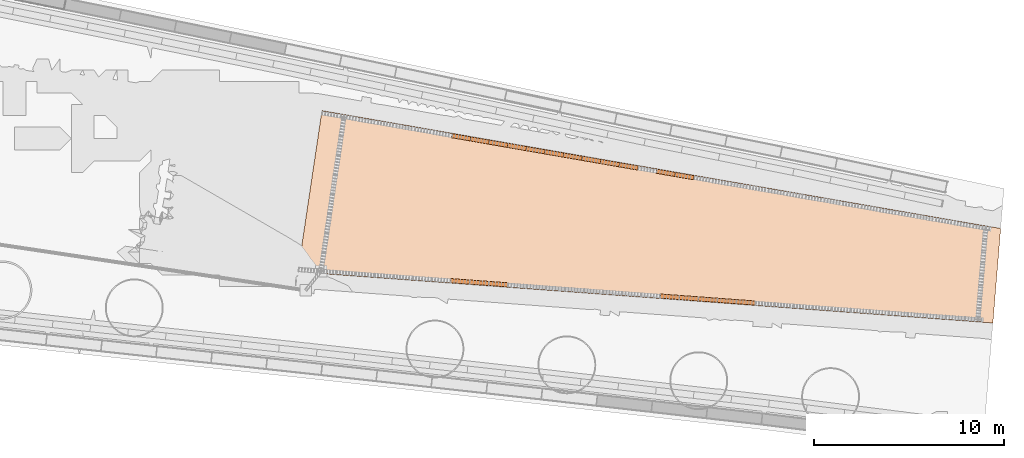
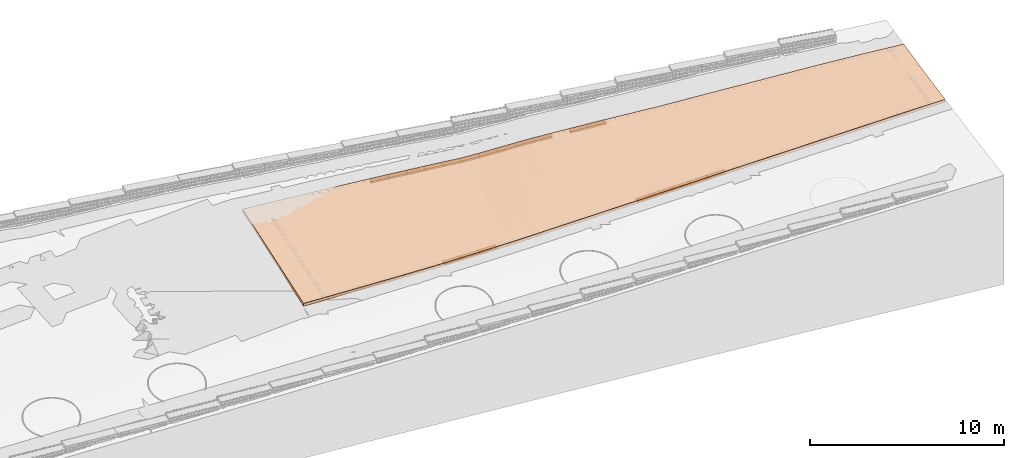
# Not in any storey, part 27 of 33: 20 proxies, 1 geographic element.
"""IFC4 model written with IfcOpenShell, lengths in metres."""

import ifcopenshell
import ifcopenshell.guid

model = None  # the IFC model being written
_history = None  # IfcOwnerHistory: only IFC2X3 demands one
_inside = {}  # id of a spatial element -> (the spatial element, [elements in it])
_under = {}  # id of a project, library or spatial element -> (it, [spatial elements below it])
_declared = {}  # id of a project -> (the project, [libraries it declares])
_typed = {}  # id of a type object -> (the type object, [elements of that type])
_made_of = {}  # id of a material, layer set ... -> (it, [elements and type objects made of it])


def new_model(schema):
    """Start an empty IFC model of exactly this schema.

    Asked for "IFC4X3", IfcOpenShell would pick the latest addendum, in which some entities
    have other attributes; the version numbers below select the first issue.
    IFC2X3 requires an IfcOwnerHistory on every rooted entity: one is made here for all.
    """
    global model, _history
    if schema == "IFC4X3":
        model = ifcopenshell.file(schema_version=(4, 3, 0, 0))
    else:
        model = ifcopenshell.file(schema=schema)
    _inside.clear()
    _under.clear()
    _declared.clear()
    _typed.clear()
    _made_of.clear()
    _history = None
    if model.schema == "IFC2X3":
        org = make("IfcOrganization", Name="unknown")
        user = make(
            "IfcPersonAndOrganization",
            ThePerson=make("IfcPerson", FamilyName="unknown"),
            TheOrganization=org,
        )
        app = make(
            "IfcApplication",
            ApplicationDeveloper=org,
            Version="unknown",
            ApplicationFullName="unknown",
            ApplicationIdentifier="unknown",
        )
        _history = make(
            "IfcOwnerHistory",
            OwningUser=user,
            OwningApplication=app,
            ChangeAction="ADDED",
            CreationDate=0,
        )
    return model


def make(cls, **values):
    """One entity of the class cls with the attributes given. An attribute that is None is left unset."""
    return model.create_entity(
        cls, **{name: value for name, value in values.items() if value is not None}
    )


def rooted(cls, **values):
    """An entity with a GlobalId (a new one), such as an element, a storey or a relation."""
    return make(cls, GlobalId=ifcopenshell.guid.new(), OwnerHistory=_history, **values)


def si_unit(unit_type, name, prefix=None):
    """IfcSIUnit, for example si_unit("LENGTHUNIT", "METRE", prefix="MILLI")."""
    return make("IfcSIUnit", UnitType=unit_type, Prefix=prefix, Name=name)


def assignment(units):
    """IfcUnitAssignment: the units of a project."""
    return None if units is None else make("IfcUnitAssignment", Units=units)


def point(xyz):
    """IfcCartesianPoint."""
    return None if xyz is None else make("IfcCartesianPoint", Coordinates=xyz)


def direction(xyz):
    """IfcDirection."""
    return None if xyz is None else make("IfcDirection", DirectionRatios=xyz)


def frame(location, z_axis=None, x_axis=None):
    """IfcAxis2Placement3D, a coordinate frame: its origin and axes. An axis left out is left unset."""
    return make(
        "IfcAxis2Placement3D",
        Location=point(location),
        Axis=direction(z_axis),
        RefDirection=direction(x_axis),
    )


def origin_with_axes():
    """The frame at (0, 0, 0) with the z axis (0, 0, 1) and the x axis (1, 0, 0) written out."""
    return frame((0.0, 0.0, 0.0), z_axis=(0.0, 0.0, 1.0), x_axis=(1.0, 0.0, 0.0))


def place(relative_to, where):
    """IfcLocalPlacement: puts the frame where relative to a parent placement (None: the world)."""
    return make(
        "IfcLocalPlacement", PlacementRelTo=relative_to, RelativePlacement=where
    )


def context(
    kind, dimensions, precision=None, world=None, true_north=None, identifier=None
):
    """IfcGeometricRepresentationContext, for example the 3D "Model" context."""
    return make(
        "IfcGeometricRepresentationContext",
        ContextIdentifier=identifier,
        ContextType=kind,
        CoordinateSpaceDimension=dimensions,
        Precision=precision,
        WorldCoordinateSystem=world,
        TrueNorth=true_north,
    )


def subcontext(parent, identifier, kind, view, scale=None):
    """IfcGeometricRepresentationSubContext, for example "Body" below "Model"."""
    return make(
        "IfcGeometricRepresentationSubContext",
        ContextIdentifier=identifier,
        ContextType=kind,
        ParentContext=parent,
        TargetScale=scale,
        TargetView=view,
    )


def project(units=None, contexts=None):
    """IfcProject with its units and contexts."""
    return rooted(
        "IfcProject",
        Name="project",
        RepresentationContexts=contexts,
        UnitsInContext=assignment(units),
    )


def spatial(cls, under=None, at=None, **own):
    """A site, building, storey or space (cls), placed at a placement, below another one or the project."""
    s = rooted(cls, ObjectPlacement=at, **own)
    if under is not None:
        _under.setdefault(under.id(), (under, []))[1].append(s)
    return s


def point_list(points):
    """IfcCartesianPointList2D or 3D."""
    cls = (
        "IfcCartesianPointList2D" if len(points[0]) == 2 else "IfcCartesianPointList3D"
    )
    return make(cls, CoordList=points)


def polygons(points, faces, closed=None, point_numbers=None):
    """IfcPolygonalFaceSet: a face is its outer loop, then its inner loops; points numbered from 1."""
    made = []
    for loops in faces:
        if len(loops) == 1:
            made.append(make("IfcIndexedPolygonalFace", CoordIndex=loops[0]))
        else:
            made.append(
                make(
                    "IfcIndexedPolygonalFaceWithVoids",
                    CoordIndex=loops[0],
                    InnerCoordIndices=loops[1:],
                )
            )
    return make(
        "IfcPolygonalFaceSet",
        Coordinates=point_list(points),
        Closed=closed,
        Faces=made,
        PnIndex=point_numbers,
    )


def shape(context_of_items, identifier, shape_type, items):
    """IfcShapeRepresentation: the items that make up one representation, for example the "Body"."""
    return make(
        "IfcShapeRepresentation",
        ContextOfItems=context_of_items,
        RepresentationIdentifier=identifier,
        RepresentationType=shape_type,
        Items=items,
    )


def material(Name=None, Category=None):
    """IfcMaterial."""
    return make("IfcMaterial", Name=Name, Category=Category)


def made_of(thing, what):
    """Note that an element or type object is made of a material, layer set ...; save() writes the relation."""
    if what is not None:
        _made_of.setdefault(what.id(), (what, []))[1].append(thing)
    return thing


def element(
    cls,
    number,
    at=None,
    inside=None,
    cuts=None,
    type_object=None,
    material=None,
    context=None,
    identifier="Body",
    shape_type=None,
    held_by="IfcProductDefinitionShape",
    body=None,
    shapes=None,
    **own,
):
    """One element of the class cls, such as IfcWall. Its Tag is "e" and its number.

    at: its placement. inside: the storey or other place that contains it. cuts: it is an
    opening in that element (IfcRelVoidsElement). A single representation is given by context,
    identifier, shape_type and body (its items); several are given by shapes. held_by: the class
    of the entity that holds the representations. save() writes the other relations.
    """
    e = rooted(cls, Tag="e%d" % number, ObjectPlacement=at, **own)
    if body is not None:
        shapes = [shape(context, identifier, shape_type, body)]
    if shapes is not None:
        e.Representation = make(held_by, Representations=shapes)
    if inside is not None:
        _inside.setdefault(inside.id(), (inside, []))[1].append(e)
    if cuts is not None:
        rooted(
            "IfcRelVoidsElement", RelatingBuildingElement=cuts, RelatedOpeningElement=e
        )
    if type_object is not None:
        _typed.setdefault(type_object.id(), (type_object, []))[1].append(e)
    return made_of(e, material)


def aggregate(whole, parts):
    """IfcRelAggregates: a whole, such as a stair, and the parts it consists of."""
    return rooted("IfcRelAggregates", RelatingObject=whole, RelatedObjects=parts)


def save(model, path):
    """Write the relations noted so far, then the file.

    IfcRelAggregates (storeys below a building ...), IfcRelContainedInSpatialStructure (elements
    in a storey), IfcRelDefinesByType, IfcRelAssociatesMaterial and IfcRelDeclares: one each for
    every whole, place, type object, material and project.
    """
    for whole, parts in _under.values():
        aggregate(whole, parts)
    for where, things in _inside.values():
        rooted(
            "IfcRelContainedInSpatialStructure",
            RelatedElements=things,
            RelatingStructure=where,
        )
    for kind, things in _typed.values():
        rooted("IfcRelDefinesByType", RelatedObjects=things, RelatingType=kind)
    for what, things in _made_of.values():
        rooted("IfcRelAssociatesMaterial", RelatedObjects=things, RelatingMaterial=what)
    for by, libraries in _declared.values():
        rooted("IfcRelDeclares", RelatingContext=by, RelatedDefinitions=libraries)
    model.write(path)


model = new_model("IFC4")

# Units and contexts
model_context = context("Model", 3, precision=1e-05, world=origin_with_axes(), true_north=direction((0.0, 1.0)))
body_context = subcontext(model_context, "Body", "Model", "MODEL_VIEW")
ifc_project = project(units=[si_unit("AREAUNIT", "SQUARE_METRE"), si_unit("VOLUMEUNIT", "CUBIC_METRE"), si_unit("LENGTHUNIT", "METRE")], contexts=[model_context])

# Site
site_placement = place(None, origin_with_axes())
site = spatial("IfcSite", under=ifc_project, at=site_placement, Name="Lares · Rua das Mercês · artigo 4771")

# Geographic element
ifc_material_1 = material(Name="Pavimento rugoso · betão vassourado", Category="paving")
geographic_element_placement = place(site_placement, origin_with_axes())
element("IfcGeographicElement", 1, at=geographic_element_placement, inside=site, material=ifc_material_1, Name="Acesso trapezoidal · 8,60 m no pódio / 5,00 m na rua", ObjectType="Acesso trapezoidal · 8,60 m no pódio / 5,00 m na rua", PredefinedType="USERDEFINED", context=body_context, shape_type="Tessellation", body=[
    polygons([(47.2726756, 7.4551369, 14.6754), (46.6370951, 3.2023687, 14.5034), (48.2651934, 7.3330373, 14.6950979), (47.641404, 3.1285378, 14.5081064), (47.9082561, 11.7079052, 14.8474), (48.8889828, 11.5375368, 14.880832), (49.2577113, 7.2109377, 14.7141288), (48.6457129, 3.0547069, 14.5146605), (49.8697096, 11.3671684, 14.9144106), (50.2502291, 7.088838, 14.7324927), (49.6500219, 2.9808761, 14.5230623), (50.8504364, 11.1968, 14.9494817), (51.242747, 6.9667384, 14.7501895), (50.6543308, 2.9070452, 14.5333117), (51.8311632, 11.0264316, 14.9814926), (52.2352648, 6.8446388, 14.7672194), (51.6586397, 2.8332143, 14.5454088), (52.81189, 10.8560632, 15.0124955), (53.2277827, 6.7225391, 14.7835822), (52.6629486, 2.7593834, 14.5593536), (53.7926168, 10.6856949, 15.0424902), (54.2203005, 6.6004395, 14.8017153), (53.6672575, 2.6855525, 14.575146), (54.7733435, 10.5153265, 15.0714768), (55.2128184, 6.4783398, 14.8244149), (54.6715664, 2.6117216, 14.5927861), (55.7540703, 10.3449581, 15.0994552), (56.2053362, 6.3562402, 14.8550989), (55.6758753, 2.5378907, 14.6282986), (56.7347971, 10.1745897, 15.1193596), (57.1978541, 6.2341406, 14.8857829), (56.6801842, 2.4640598, 14.6654506), (57.7155239, 10.0042213, 15.1392641), (58.1903719, 6.1120409, 14.9164669), (57.6844932, 2.3902289, 14.7070092), (58.6962507, 9.8338529, 15.1591685), (59.1828898, 5.9899413, 14.947151), (58.6888021, 2.316398, 14.7485679), (59.6769775, 9.6634845, 15.1660071), (60.1754076, 5.8678417, 15.0302493), (59.693111, 2.2425671, 14.8057838), (60.6577042, 9.4931162, 15.2273903), (61.1679255, 5.745742, 15.1146175), (60.6974199, 2.1687363, 14.8641032), (61.638431, 9.3227478, 15.3111848), (62.1604433, 5.6236424, 15.1705025), (61.7017288, 2.0949054, 14.9224226), (62.6191578, 9.1523794, 15.3990058), (63.1529612, 5.5015427, 15.2263874), (62.7060377, 2.0210745, 14.980742), (63.5998846, 8.982011, 15.4794087), (64.145479, 5.3794431, 15.2822723), (63.7103466, 1.9472436, 15.0390614), (64.5806114, 8.8116426, 15.5314253), (65.1379969, 5.2573435, 15.3381573), (64.7146555, 1.8734127, 15.0973808), (65.5613382, 8.6412742, 15.583442), (66.1305147, 5.1352438, 15.3940422), (65.7189645, 1.7995818, 15.1557002), (66.5420649, 8.4709059, 15.6354586), (67.1230326, 5.0131442, 15.4499271), (66.7232734, 1.7257509, 15.2140196), (67.5227917, 8.3005375, 15.6806264), (68.1155504, 4.8910446, 15.505812), (67.7275823, 1.65192, 15.272339), (68.5035185, 8.1301691, 15.7192003), (69.1080682, 4.7689449, 15.561697), (68.7318912, 1.5780891, 15.3318854), (69.4842453, 7.9598007, 15.7577742), (70.1005861, 4.6468453, 15.6040598), (69.7362001, 1.5042582, 15.3916386), (70.4649721, 7.7894323, 15.7963481), (71.0931039, 4.5247456, 15.6458906), (70.740509, 1.4304273, 15.4513918), (71.4456989, 7.6190639, 15.8535828), (72.0856218, 4.402646, 15.6911355), (71.7448179, 1.3565965, 15.5074355), (72.4264256, 7.4486956, 15.9152973), (73.0781396, 4.2805464, 15.7447425), (72.7491268, 1.2827656, 15.5651106), (73.4071524, 7.2783272, 15.9732245), (74.0706575, 4.1584467, 15.7983495), (73.7534358, 1.2089347, 15.6230391), (74.3878792, 7.1079588, 16.0274247), (75.0631753, 4.0363471, 15.8519566), (74.7577447, 1.1351038, 15.6809676), (75.368606, 6.9375904, 16.0816249), (76.0556932, 3.9142475, 15.9055636), (75.7620536, 1.0612729, 15.7388962), (76.3493328, 6.767222, 16.1358251), (77.048211, 3.7921478, 15.9591706), (76.7663625, 0.987442, 15.7968247), (77.3300596, 6.5968536, 16.1900253), (78.0407289, 3.6700482, 16.0127777), (77.7706714, 0.9136111, 15.8547533), (78.3107864, 6.4264853, 16.2442255), (79.0332467, 3.5479485, 16.0663847), (78.7749803, 0.8397802, 15.9126818), (79.2915131, 6.2561169, 16.2984257), (80.0257646, 3.4258489, 16.1199917), (79.7792892, 0.7659493, 15.9706103), (80.2722399, 6.0857485, 16.3441265), (81.0182824, 3.3037493, 16.1735987), (80.7835981, 0.6921184, 16.0285389), (81.2529667, 5.9153801, 16.3875319), (82.0108003, 3.1816496, 16.2215866), (81.7879071, 0.6182875, 16.0800639), (82.2336935, 5.7450117, 16.4245337), (82.6933711, 3.0976797, 16.2506754), (82.4785868, 0.5675128, 16.1113058), (82.9081554, 5.6278466, 16.4457879), (83.0033181, 3.05955, 16.2638843), (82.792216, 0.5444567, 16.1254924), (83.2144203, 5.5746433, 16.4554391), (83.4873854, 3.0, 16.2845136), (83.2820339, 0.5084481, 16.1476487), (83.6927368, 5.4915519, 16.4705122), (47.2726756, 7.4551369, 14.4954), (46.6370951, 3.2023687, 14.3234), (48.2651934, 7.3330373, 14.5150979), (47.641404, 3.1285378, 14.3281064), (47.9082561, 11.7079052, 14.6674), (48.8889828, 11.5375368, 14.700832), (49.2577113, 7.2109377, 14.5341288), (48.6457129, 3.0547069, 14.3346605), (49.8697096, 11.3671684, 14.7344106), (50.2502291, 7.088838, 14.5524927), (49.6500219, 2.9808761, 14.3430623), (50.8504364, 11.1968, 14.7694817), (51.242747, 6.9667384, 14.5701895), (50.6543308, 2.9070452, 14.3533117), (51.8311632, 11.0264316, 14.8014926), (52.2352648, 6.8446388, 14.5872194), (51.6586397, 2.8332143, 14.3654088), (52.81189, 10.8560632, 14.8324955), (53.2277827, 6.7225391, 14.6035822), (52.6629486, 2.7593834, 14.3793536), (53.7926168, 10.6856949, 14.8624902), (54.2203005, 6.6004395, 14.6217153), (53.6672575, 2.6855525, 14.395146), (54.7733435, 10.5153265, 14.8914768), (55.2128184, 6.4783398, 14.6444149), (54.6715664, 2.6117216, 14.4127861), (55.7540703, 10.3449581, 14.9194552), (56.2053362, 6.3562402, 14.6750989), (55.6758753, 2.5378907, 14.4482986), (56.7347971, 10.1745897, 14.9393596), (57.1978541, 6.2341406, 14.7057829), (56.6801842, 2.4640598, 14.4854506), (57.7155239, 10.0042213, 14.9592641), (58.1903719, 6.1120409, 14.7364669), (57.6844932, 2.3902289, 14.5270092), (58.6962507, 9.8338529, 14.9791685), (59.1828898, 5.9899413, 14.767151), (58.6888021, 2.316398, 14.5685679), (59.6769775, 9.6634845, 14.9860071), (60.1754076, 5.8678417, 14.8502493), (59.693111, 2.2425671, 14.6257838), (60.6577042, 9.4931162, 15.0473903), (61.1679255, 5.745742, 14.9346175), (60.6974199, 2.1687363, 14.6841032), (61.638431, 9.3227478, 15.1311848), (62.1604433, 5.6236424, 14.9905025), (61.7017288, 2.0949054, 14.7424226), (62.6191578, 9.1523794, 15.2190058), (63.1529612, 5.5015427, 15.0463874), (62.7060377, 2.0210745, 14.800742), (63.5998846, 8.982011, 15.2994087), (64.145479, 5.3794431, 15.1022723), (63.7103466, 1.9472436, 14.8590614), (64.5806114, 8.8116426, 15.3514253), (65.1379969, 5.2573435, 15.1581573), (64.7146555, 1.8734127, 14.9173808), (65.5613382, 8.6412742, 15.403442), (66.1305147, 5.1352438, 15.2140422), (65.7189645, 1.7995818, 14.9757002), (66.5420649, 8.4709059, 15.4554586), (67.1230326, 5.0131442, 15.2699271), (66.7232734, 1.7257509, 15.0340196), (67.5227917, 8.3005375, 15.5006264), (68.1155504, 4.8910446, 15.325812), (67.7275823, 1.65192, 15.092339), (68.5035185, 8.1301691, 15.5392003), (69.1080682, 4.7689449, 15.381697), (68.7318912, 1.5780891, 15.1518854), (69.4842453, 7.9598007, 15.5777742), (70.1005861, 4.6468453, 15.4240598), (69.7362001, 1.5042582, 15.2116386), (70.4649721, 7.7894323, 15.6163481), (71.0931039, 4.5247456, 15.4658906), (70.740509, 1.4304273, 15.2713918), (71.4456989, 7.6190639, 15.6735828), (72.0856218, 4.402646, 15.5111355), (71.7448179, 1.3565965, 15.3274355), (72.4264256, 7.4486956, 15.7352973), (73.0781396, 4.2805464, 15.5647425), (72.7491268, 1.2827656, 15.3851106), (73.4071524, 7.2783272, 15.7932245), (74.0706575, 4.1584467, 15.6183495), (73.7534358, 1.2089347, 15.4430391), (74.3878792, 7.1079588, 15.8474247), (75.0631753, 4.0363471, 15.6719566), (74.7577447, 1.1351038, 15.5009676), (75.368606, 6.9375904, 15.9016249), (76.0556932, 3.9142475, 15.7255636), (75.7620536, 1.0612729, 15.5588962), (76.3493328, 6.767222, 15.9558251), (77.048211, 3.7921478, 15.7791706), (76.7663625, 0.987442, 15.6168247), (77.3300596, 6.5968536, 16.0100253), (78.0407289, 3.6700482, 15.8327777), (77.7706714, 0.9136111, 15.6747533), (78.3107864, 6.4264853, 16.0642255), (79.0332467, 3.5479485, 15.8863847), (78.7749803, 0.8397802, 15.7326818), (79.2915131, 6.2561169, 16.1184257), (80.0257646, 3.4258489, 15.9399917), (79.7792892, 0.7659493, 15.7906103), (80.2722399, 6.0857485, 16.1641265), (81.0182824, 3.3037493, 15.9935987), (80.7835981, 0.6921184, 15.8485389), (81.2529667, 5.9153801, 16.2075319), (82.0108003, 3.1816496, 16.0415866), (81.7879071, 0.6182875, 15.9000639), (82.2336935, 5.7450117, 16.2445337), (82.6933711, 3.0976797, 16.0706754), (82.4785868, 0.5675128, 15.9313058), (82.9081554, 5.6278466, 16.2657879), (83.0033181, 3.05955, 16.0838843), (82.792216, 0.5444567, 15.9454924), (83.2144203, 5.5746433, 16.2754391), (83.4873854, 3.0, 16.1045136), (83.2820339, 0.5084481, 15.9676487), (83.6927368, 5.4915519, 16.2905122)], [[[1, 2, 3]], [[4, 3, 2]], [[1, 6, 5]], [[3, 6, 1]], [[3, 4, 7]], [[8, 7, 4]], [[3, 9, 6]], [[7, 9, 3]], [[7, 8, 10]], [[11, 10, 8]], [[7, 12, 9]], [[10, 12, 7]], [[10, 11, 13]], [[14, 13, 11]], [[15, 12, 10]], [[13, 15, 10]], [[13, 14, 16]], [[17, 16, 14]], [[18, 15, 13]], [[16, 18, 13]], [[16, 17, 19]], [[20, 19, 17]], [[21, 18, 16]], [[19, 21, 16]], [[19, 20, 22]], [[23, 22, 20]], [[24, 21, 19]], [[22, 24, 19]], [[22, 23, 25]], [[26, 25, 23]], [[27, 24, 22]], [[25, 27, 22]], [[25, 26, 28]], [[29, 28, 26]], [[30, 27, 25]], [[28, 30, 25]], [[28, 29, 31]], [[32, 31, 29]], [[33, 30, 28]], [[31, 33, 28]], [[31, 32, 34]], [[35, 34, 32]], [[36, 33, 31]], [[34, 36, 31]], [[34, 35, 37]], [[38, 37, 35]], [[39, 36, 34]], [[37, 39, 34]], [[40, 37, 38]], [[38, 41, 40]], [[37, 42, 39]], [[37, 40, 42]], [[43, 40, 41]], [[41, 44, 43]], [[40, 45, 42]], [[40, 43, 45]], [[46, 43, 44]], [[44, 47, 46]], [[43, 48, 45]], [[43, 46, 48]], [[49, 46, 47]], [[47, 50, 49]], [[46, 51, 48]], [[49, 51, 46]], [[52, 49, 50]], [[53, 52, 50]], [[54, 51, 49]], [[52, 54, 49]], [[55, 52, 53]], [[56, 55, 53]], [[57, 54, 52]], [[55, 57, 52]], [[58, 55, 56]], [[59, 58, 56]], [[60, 57, 55]], [[58, 60, 55]], [[61, 58, 59]], [[62, 61, 59]], [[63, 60, 58]], [[58, 61, 63]], [[64, 61, 62]], [[65, 64, 62]], [[66, 63, 61]], [[61, 64, 66]], [[64, 65, 67]], [[68, 67, 65]], [[69, 66, 64]], [[64, 67, 69]], [[67, 68, 70]], [[68, 71, 70]], [[72, 69, 67]], [[70, 72, 67]], [[70, 71, 73]], [[71, 74, 73]], [[70, 75, 72]], [[73, 75, 70]], [[73, 74, 76]], [[74, 77, 76]], [[73, 78, 75]], [[76, 78, 73]], [[79, 76, 77]], [[77, 80, 79]], [[76, 81, 78]], [[79, 81, 76]], [[82, 79, 80]], [[80, 83, 82]], [[84, 81, 79]], [[82, 84, 79]], [[85, 82, 83]], [[83, 86, 85]], [[87, 84, 82]], [[85, 87, 82]], [[88, 85, 86]], [[86, 89, 88]], [[90, 87, 85]], [[88, 90, 85]], [[91, 88, 89]], [[89, 92, 91]], [[93, 90, 88]], [[91, 93, 88]], [[94, 91, 92]], [[92, 95, 94]], [[96, 93, 91]], [[94, 96, 91]], [[97, 94, 95]], [[95, 98, 97]], [[99, 96, 94]], [[97, 99, 94]], [[100, 97, 98]], [[98, 101, 100]], [[102, 99, 97]], [[100, 102, 97]], [[103, 100, 101]], [[101, 104, 103]], [[105, 102, 100]], [[103, 105, 100]], [[106, 103, 104]], [[104, 107, 106]], [[108, 105, 103]], [[106, 108, 103]], [[106, 107, 109]], [[110, 109, 107]], [[111, 108, 106]], [[109, 111, 106]], [[109, 110, 112]], [[113, 112, 110]], [[114, 111, 109]], [[112, 114, 109]], [[112, 113, 115]], [[116, 115, 113]], [[117, 114, 112]], [[115, 117, 112]], [[120, 119, 118]], [[119, 120, 121]], [[122, 123, 118]], [[118, 123, 120]], [[124, 121, 120]], [[121, 124, 125]], [[123, 126, 120]], [[120, 126, 124]], [[127, 125, 124]], [[125, 127, 128]], [[126, 129, 124]], [[124, 129, 127]], [[130, 128, 127]], [[128, 130, 131]], [[127, 129, 132]], [[127, 132, 130]], [[133, 131, 130]], [[131, 133, 134]], [[130, 132, 135]], [[130, 135, 133]], [[136, 134, 133]], [[134, 136, 137]], [[133, 135, 138]], [[133, 138, 136]], [[139, 137, 136]], [[137, 139, 140]], [[136, 138, 141]], [[136, 141, 139]], [[142, 140, 139]], [[140, 142, 143]], [[139, 141, 144]], [[139, 144, 142]], [[145, 143, 142]], [[143, 145, 146]], [[142, 144, 147]], [[142, 147, 145]], [[148, 146, 145]], [[146, 148, 149]], [[145, 147, 150]], [[145, 150, 148]], [[151, 149, 148]], [[149, 151, 152]], [[148, 150, 153]], [[148, 153, 151]], [[154, 152, 151]], [[152, 154, 155]], [[151, 153, 156]], [[151, 156, 154]], [[155, 154, 157]], [[157, 158, 155]], [[156, 159, 154]], [[159, 157, 154]], [[158, 157, 160]], [[160, 161, 158]], [[159, 162, 157]], [[162, 160, 157]], [[161, 160, 163]], [[163, 164, 161]], [[162, 165, 160]], [[165, 163, 160]], [[164, 163, 166]], [[166, 167, 164]], [[165, 168, 163]], [[163, 168, 166]], [[167, 166, 169]], [[167, 169, 170]], [[166, 168, 171]], [[166, 171, 169]], [[170, 169, 172]], [[170, 172, 173]], [[169, 171, 174]], [[169, 174, 172]], [[173, 172, 175]], [[173, 175, 176]], [[172, 174, 177]], [[172, 177, 175]], [[176, 175, 178]], [[176, 178, 179]], [[175, 177, 180]], [[180, 178, 175]], [[179, 178, 181]], [[179, 181, 182]], [[178, 180, 183]], [[183, 181, 178]], [[184, 182, 181]], [[182, 184, 185]], [[181, 183, 186]], [[186, 184, 181]], [[187, 185, 184]], [[187, 188, 185]], [[184, 186, 189]], [[184, 189, 187]], [[190, 188, 187]], [[190, 191, 188]], [[189, 192, 187]], [[187, 192, 190]], [[193, 191, 190]], [[193, 194, 191]], [[192, 195, 190]], [[190, 195, 193]], [[194, 193, 196]], [[196, 197, 194]], [[195, 198, 193]], [[193, 198, 196]], [[197, 196, 199]], [[199, 200, 197]], [[196, 198, 201]], [[196, 201, 199]], [[200, 199, 202]], [[202, 203, 200]], [[199, 201, 204]], [[199, 204, 202]], [[203, 202, 205]], [[205, 206, 203]], [[202, 204, 207]], [[202, 207, 205]], [[206, 205, 208]], [[208, 209, 206]], [[205, 207, 210]], [[205, 210, 208]], [[209, 208, 211]], [[211, 212, 209]], [[208, 210, 213]], [[208, 213, 211]], [[212, 211, 214]], [[214, 215, 212]], [[211, 213, 216]], [[211, 216, 214]], [[215, 214, 217]], [[217, 218, 215]], [[214, 216, 219]], [[214, 219, 217]], [[218, 217, 220]], [[220, 221, 218]], [[217, 219, 222]], [[217, 222, 220]], [[221, 220, 223]], [[223, 224, 221]], [[220, 222, 225]], [[220, 225, 223]], [[226, 224, 223]], [[224, 226, 227]], [[223, 225, 228]], [[223, 228, 226]], [[229, 227, 226]], [[227, 229, 230]], [[226, 228, 231]], [[226, 231, 229]], [[232, 230, 229]], [[230, 232, 233]], [[229, 231, 234]], [[229, 234, 232]], [[1, 118, 119, 2]], [[2, 119, 121, 4]], [[6, 123, 122, 5]], [[5, 122, 118, 1]], [[4, 121, 125, 8]], [[9, 126, 123, 6]], [[8, 125, 128, 11]], [[12, 129, 126, 9]], [[11, 128, 131, 14]], [[15, 132, 129, 12]], [[14, 131, 134, 17]], [[18, 135, 132, 15]], [[17, 134, 137, 20]], [[21, 138, 135, 18]], [[20, 137, 140, 23]], [[24, 141, 138, 21]], [[23, 140, 143, 26]], [[27, 144, 141, 24]], [[26, 143, 146, 29]], [[30, 147, 144, 27]], [[29, 146, 149, 32]], [[33, 150, 147, 30]], [[32, 149, 152, 35]], [[36, 153, 150, 33]], [[35, 152, 155, 38]], [[39, 156, 153, 36]], [[38, 155, 158, 41]], [[42, 159, 156, 39]], [[41, 158, 161, 44]], [[45, 162, 159, 42]], [[44, 161, 164, 47]], [[48, 165, 162, 45]], [[47, 164, 167, 50]], [[51, 168, 165, 48]], [[50, 167, 170, 53]], [[54, 171, 168, 51]], [[53, 170, 173, 56]], [[57, 174, 171, 54]], [[56, 173, 176, 59]], [[60, 177, 174, 57]], [[59, 176, 179, 62]], [[63, 180, 177, 60]], [[62, 179, 182, 65]], [[66, 183, 180, 63]], [[65, 182, 185, 68]], [[69, 186, 183, 66]], [[68, 185, 188, 71]], [[72, 189, 186, 69]], [[71, 188, 191, 74]], [[75, 192, 189, 72]], [[74, 191, 194, 77]], [[78, 195, 192, 75]], [[77, 194, 197, 80]], [[81, 198, 195, 78]], [[80, 197, 200, 83]], [[84, 201, 198, 81]], [[83, 200, 203, 86]], [[87, 204, 201, 84]], [[86, 203, 206, 89]], [[90, 207, 204, 87]], [[89, 206, 209, 92]], [[93, 210, 207, 90]], [[92, 209, 212, 95]], [[96, 213, 210, 93]], [[95, 212, 215, 98]], [[99, 216, 213, 96]], [[98, 215, 218, 101]], [[102, 219, 216, 99]], [[101, 218, 221, 104]], [[105, 222, 219, 102]], [[104, 221, 224, 107]], [[108, 225, 222, 105]], [[107, 224, 227, 110]], [[111, 228, 225, 108]], [[110, 227, 230, 113]], [[114, 231, 228, 111]], [[116, 233, 232, 115]], [[113, 230, 233, 116]], [[117, 234, 231, 114]], [[115, 232, 234, 117]]]),
])

# Proxies
ifc_material_2 = material(Name="Brita drenante", Category="stone")
proxy_1_placement = place(site_placement, frame((0.0, 0.0, 0.0), z_axis=(0.0, 0.0, 1.0), x_axis=(1.0, -1.03767253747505e-17, 0.0)))
element("IfcBuildingElementProxy", 2, at=proxy_1_placement, inside=site, material=ifc_material_2, Name="Acesso · dreno lateral raso · leito drenante", ObjectType="Acesso · dreno lateral raso · leito drenante", PredefinedType="USERDEFINED", context=body_context, shape_type="Tessellation", body=[
    polygons([(54.6815246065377, 2.63076232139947, 14.4624677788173), (54.6976518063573, 2.85017041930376, 14.4624677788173), (55.7017941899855, 2.77636272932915, 14.4979751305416), (55.685666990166, 2.55695463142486, 14.4979751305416), (54.6815246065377, 2.63076232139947, 14.5774677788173), (54.6976518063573, 2.85017041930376, 14.5774677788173), (55.7017941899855, 2.77636272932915, 14.6129751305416), (55.685666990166, 2.55695463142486, 14.6129751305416)], [[[4, 3, 2, 1]], [[5, 6, 7, 8]], [[1, 2, 6, 5]], [[2, 3, 7, 6]], [[3, 4, 8, 7]], [[4, 1, 5, 8]]]),
])
proxy_2_placement = place(site_placement, frame((0.0, 0.0, 0.0), z_axis=(0.0, 0.0, 1.0), x_axis=(1.0, -1.03767253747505e-17, 0.0)))
element("IfcBuildingElementProxy", 3, at=proxy_2_placement, inside=site, material=ifc_material_2, Name="Acesso · dreno lateral raso · leito drenante", ObjectType="Acesso · dreno lateral raso · leito drenante", PredefinedType="USERDEFINED", context=body_context, shape_type="Tessellation", body=[
    polygons([(55.6856669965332, 2.55695463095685, 14.4979751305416), (55.7017941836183, 2.77636272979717, 14.4979751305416), (56.7059322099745, 2.70255541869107, 14.5334823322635), (56.6898050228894, 2.48314731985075, 14.5334823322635), (55.6856669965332, 2.55695463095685, 14.6129751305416), (55.7017941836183, 2.77636272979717, 14.6129751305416), (56.7059322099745, 2.70255541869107, 14.6484823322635), (56.6898050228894, 2.48314731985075, 14.6484823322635)], [[[4, 3, 2, 1]], [[5, 6, 7, 8]], [[1, 2, 6, 5]], [[2, 3, 7, 6]], [[3, 4, 8, 7]], [[4, 1, 5, 8]]]),
])
proxy_3_placement = place(site_placement, frame((0.0, 0.0, 0.0), z_axis=(0.0, 0.0, 1.0), x_axis=(1.0, -1.03767253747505e-17, 0.0)))
element("IfcBuildingElementProxy", 4, at=proxy_3_placement, inside=site, material=ifc_material_2, Name="Acesso · dreno lateral raso · leito drenante", ObjectType="Acesso · dreno lateral raso · leito drenante", PredefinedType="USERDEFINED", context=body_context, shape_type="Tessellation", body=[
    polygons([(56.6898050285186, 2.48314731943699, 14.5334823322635), (56.7059322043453, 2.70255541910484, 14.5334823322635), (57.7100657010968, 2.62874849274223, 14.5734079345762), (57.6939385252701, 2.40934039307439, 14.5734079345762), (56.6898050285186, 2.48314731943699, 14.6484823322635), (56.7059322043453, 2.70255541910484, 14.6484823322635), (57.7100657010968, 2.62874849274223, 14.6884079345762), (57.6939385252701, 2.40934039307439, 14.6884079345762)], [[[4, 3, 2, 1]], [[5, 6, 7, 8]], [[1, 2, 6, 5]], [[2, 3, 7, 6]], [[3, 4, 8, 7]], [[4, 1, 5, 8]]]),
])
proxy_4_placement = place(site_placement, frame((0.0, 0.0, 0.0), z_axis=(0.0, 0.0, 1.0), x_axis=(1.0, -1.03767253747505e-17, 0.0)))
element("IfcBuildingElementProxy", 5, at=proxy_4_placement, inside=site, material=ifc_material_2, Name="Acesso · dreno lateral raso · leito drenante", ObjectType="Acesso · dreno lateral raso · leito drenante", PredefinedType="USERDEFINED", context=body_context, shape_type="Tessellation", body=[
    polygons([(65.7268194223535, 1.81889945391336, 15.0220231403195), (65.7429466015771, 2.03830755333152, 15.0220231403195), (66.7470298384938, 1.96450430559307, 15.0817041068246), (66.7309026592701, 1.74509620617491, 15.0817041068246), (65.7268194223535, 1.81889945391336, 15.1370231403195), (65.7429466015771, 2.03830755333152, 15.1370231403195), (66.7470298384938, 1.96450430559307, 15.1967041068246), (66.7309026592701, 1.74509620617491, 15.1967041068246)], [[[4, 3, 2, 1]], [[5, 6, 7, 8]], [[1, 2, 6, 5]], [[2, 3, 7, 6]], [[3, 4, 8, 7]], [[4, 1, 5, 8]]]),
])
proxy_5_placement = place(site_placement, frame((0.0, 0.0, 0.0), z_axis=(0.0, 0.0, 1.0), x_axis=(1.0, -1.03767253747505e-17, 0.0)))
element("IfcBuildingElementProxy", 6, at=proxy_5_placement, inside=site, material=ifc_material_2, Name="Acesso · dreno lateral raso · leito drenante", ObjectType="Acesso · dreno lateral raso · leito drenante", PredefinedType="USERDEFINED", context=body_context, shape_type="Tessellation", body=[
    polygons([(66.7309026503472, 1.74509620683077, 15.0817041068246), (66.7470298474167, 1.96450430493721, 15.0817041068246), (67.7511062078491, 1.89070148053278, 15.1414441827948), (67.7349790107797, 1.67129338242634, 15.1414441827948), (66.7309026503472, 1.74509620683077, 15.1967041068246), (66.7470298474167, 1.96450430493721, 15.1967041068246), (67.7511062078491, 1.89070148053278, 15.2564441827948), (67.7349790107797, 1.67129338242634, 15.2564441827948)], [[[4, 3, 2, 1]], [[5, 6, 7, 8]], [[1, 2, 6, 5]], [[2, 3, 7, 6]], [[3, 4, 8, 7]], [[4, 1, 5, 8]]]),
])
proxy_6_placement = place(site_placement, frame((0.0, 0.0, 0.0), z_axis=(0.0, 0.0, 1.0), x_axis=(1.0, -1.03767253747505e-17, 0.0)))
element("IfcBuildingElementProxy", 7, at=proxy_6_placement, inside=site, material=ifc_material_2, Name="Acesso · dreno lateral raso · leito drenante", ObjectType="Acesso · dreno lateral raso · leito drenante", PredefinedType="USERDEFINED", context=body_context, shape_type="Tessellation", body=[
    polygons([(67.7349789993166, 1.67129338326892, 15.1414441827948), (67.7511062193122, 1.89070147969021, 15.1414441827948), (68.7551753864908, 1.81689907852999, 15.2011838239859), (68.7390481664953, 1.5974909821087, 15.2011838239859), (67.7349789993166, 1.67129338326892, 15.2564441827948), (67.7511062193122, 1.89070147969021, 15.2564441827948), (68.7551753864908, 1.81689907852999, 15.3161838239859), (68.7390481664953, 1.5974909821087, 15.3161838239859)], [[[4, 3, 2, 1]], [[5, 6, 7, 8]], [[1, 2, 6, 5]], [[2, 3, 7, 6]], [[3, 4, 8, 7]], [[4, 1, 5, 8]]]),
])
proxy_7_placement = place(site_placement, frame((0.0, 0.0, 0.0), z_axis=(0.0, 0.0, 1.0), x_axis=(1.0, -1.03767253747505e-17, 0.0)))
element("IfcBuildingElementProxy", 8, at=proxy_7_placement, inside=site, material=ifc_material_2, Name="Acesso · dreno lateral raso · leito drenante", ObjectType="Acesso · dreno lateral raso · leito drenante", PredefinedType="USERDEFINED", context=body_context, shape_type="Tessellation", body=[
    polygons([(68.7390481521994, 1.59749098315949, 15.2011838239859), (68.7551754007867, 1.8168990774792, 15.2011838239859), (69.7592370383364, 1.74309709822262, 15.2609230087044), (69.7431097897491, 1.52368900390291, 15.2609230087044), (68.7390481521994, 1.59749098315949, 15.3161838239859), (68.7551754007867, 1.8168990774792, 15.3161838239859), (69.7592370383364, 1.74309709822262, 15.3759230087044), (69.7431097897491, 1.52368900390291, 15.3759230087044)], [[[4, 3, 2, 1]], [[5, 6, 7, 8]], [[1, 2, 6, 5]], [[2, 3, 7, 6]], [[3, 4, 8, 7]], [[4, 1, 5, 8]]]),
])
proxy_8_placement = place(site_placement, frame((0.0, 0.0, 0.0), z_axis=(0.0, 0.0, 1.0), x_axis=(1.0, -1.03767253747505e-17, 0.0)))
element("IfcBuildingElementProxy", 9, at=proxy_8_placement, inside=site, material=ifc_material_2, Name="Acesso · dreno lateral raso · leito drenante", ObjectType="Acesso · dreno lateral raso · leito drenante", PredefinedType="USERDEFINED", context=body_context, shape_type="Tessellation", body=[
    polygons([(69.7431097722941, 1.52368900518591, 15.2609230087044), (69.7592370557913, 1.74309709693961, 15.2609230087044), (70.7632908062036, 1.66929553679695, 15.3206617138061), (70.7471635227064, 1.44988744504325, 15.3206617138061), (69.7431097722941, 1.52368900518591, 15.3759230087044), (69.7592370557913, 1.74309709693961, 15.3759230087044), (70.7632908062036, 1.66929553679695, 15.4356617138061), (70.7471635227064, 1.44988744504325, 15.4356617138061)], [[[4, 3, 2, 1]], [[5, 6, 7, 8]], [[1, 2, 6, 5]], [[2, 3, 7, 6]], [[3, 4, 8, 7]], [[4, 1, 5, 8]]]),
])
proxy_9_placement = place(site_placement, frame((0.0, 0.0, 0.0), z_axis=(0.0, 0.0, 1.0), x_axis=(1.0, -1.03767253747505e-17, 0.0)))
element("IfcBuildingElementProxy", 10, at=proxy_9_placement, inside=site, material=ifc_material_2, Name="Acesso · dreno lateral raso · leito drenante", ObjectType="Acesso · dreno lateral raso · leito drenante", PredefinedType="USERDEFINED", context=body_context, shape_type="Tessellation", body=[
    polygons([(54.7363331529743, 10.2782275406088, 14.92193946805), (54.7739856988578, 10.494981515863, 14.92193946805), (55.7548748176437, 10.3245903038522, 14.9492982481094), (55.7172222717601, 10.107836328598, 14.9492982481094), (54.7363331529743, 10.2782275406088, 15.03693946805), (54.7739856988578, 10.494981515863, 15.03693946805), (55.7548748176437, 10.3245903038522, 15.0642982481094), (55.7172222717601, 10.107836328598, 15.0642982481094)], [[[4, 3, 2, 1]], [[5, 6, 7, 8]], [[1, 2, 6, 5]], [[2, 3, 7, 6]], [[3, 4, 8, 7]], [[4, 1, 5, 8]]]),
])
proxy_10_placement = place(site_placement, frame((0.0, 0.0, 0.0), z_axis=(0.0, 0.0, 1.0), x_axis=(1.0, -1.03767253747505e-17, 0.0)))
element("IfcBuildingElementProxy", 11, at=proxy_10_placement, inside=site, material=ifc_material_2, Name="Acesso · dreno lateral raso · leito drenante", ObjectType="Acesso · dreno lateral raso · leito drenante", PredefinedType="USERDEFINED", context=body_context, shape_type="Tessellation", body=[
    polygons([(55.7172223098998, 10.1078363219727, 14.9492982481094), (55.754874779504, 10.3245903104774, 14.9492982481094), (56.7357680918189, 10.1541987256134, 14.9692064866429), (56.6981156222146, 9.93744473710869, 14.9692064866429), (55.7172223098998, 10.1078363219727, 15.0642982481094), (55.754874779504, 10.3245903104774, 15.0642982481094), (56.7357680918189, 10.1541987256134, 15.0842064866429), (56.6981156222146, 9.93744473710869, 15.0842064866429)], [[[4, 3, 2, 1]], [[5, 6, 7, 8]], [[1, 2, 6, 5]], [[2, 3, 7, 6]], [[3, 4, 8, 7]], [[4, 1, 5, 8]]]),
])
proxy_11_placement = place(site_placement, frame((0.0, 0.0, 0.0), z_axis=(0.0, 0.0, 1.0), x_axis=(1.0, -1.03767253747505e-17, 0.0)))
element("IfcBuildingElementProxy", 12, at=proxy_11_placement, inside=site, material=ifc_material_2, Name="Acesso · dreno lateral raso · leito drenante", ObjectType="Acesso · dreno lateral raso · leito drenante", PredefinedType="USERDEFINED", context=body_context, shape_type="Tessellation", body=[
    polygons([(56.6981156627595, 9.93744473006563, 14.9692064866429), (56.735768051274, 10.1541987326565, 14.9692064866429), (57.7166657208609, 9.98380676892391, 14.9891148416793), (57.6790133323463, 9.76705276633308, 14.9891148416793), (56.6981156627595, 9.93744473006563, 15.0842064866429), (56.735768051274, 10.1541987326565, 15.0842064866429), (57.7166657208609, 9.98380676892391, 15.1041148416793), (57.6790133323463, 9.76705276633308, 15.1041148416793)], [[[4, 3, 2, 1]], [[5, 6, 7, 8]], [[1, 2, 6, 5]], [[2, 3, 7, 6]], [[3, 4, 8, 7]], [[4, 1, 5, 8]]]),
])
proxy_12_placement = place(site_placement, frame((0.0, 0.0, 0.0), z_axis=(0.0, 0.0, 1.0), x_axis=(1.0, -1.03767253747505e-17, 0.0)))
element("IfcBuildingElementProxy", 13, at=proxy_12_placement, inside=site, material=ifc_material_2, Name="Acesso · dreno lateral raso · leito drenante", ObjectType="Acesso · dreno lateral raso · leito drenante", PredefinedType="USERDEFINED", context=body_context, shape_type="Tessellation", body=[
    polygons([(57.6790133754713, 9.76705275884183, 14.9891148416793), (57.7166656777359, 9.98380677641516, 14.9891148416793), (58.6975678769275, 9.81341442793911, 15.0090233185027), (58.6599155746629, 9.59666041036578, 15.0090233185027), (57.6790133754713, 9.76705275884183, 15.1041148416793), (57.7166656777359, 9.98380677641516, 15.1041148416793), (58.6975678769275, 9.81341442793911, 15.1240233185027), (58.6599155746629, 9.59666041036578, 15.1240233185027)], [[[4, 3, 2, 1]], [[5, 6, 7, 8]], [[1, 2, 6, 5]], [[2, 3, 7, 6]], [[3, 4, 8, 7]], [[4, 1, 5, 8]]]),
])
proxy_13_placement = place(site_placement, frame((0.0, 0.0, 0.0), z_axis=(0.0, 0.0, 1.0), x_axis=(1.0, -1.03767253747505e-17, 0.0)))
element("IfcBuildingElementProxy", 14, at=proxy_13_placement, inside=site, material=ifc_material_2, Name="Acesso · dreno lateral raso · leito drenante", ObjectType="Acesso · dreno lateral raso · leito drenante", PredefinedType="USERDEFINED", context=body_context, shape_type="Tessellation", body=[
    polygons([(58.659915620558, 9.59666040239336, 15.0090233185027), (58.6975678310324, 9.81341443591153, 15.0090233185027), (59.6784747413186, 9.64302169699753, 15.017504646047), (59.6408225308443, 9.42626766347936, 15.017504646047), (58.659915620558, 9.59666040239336, 15.1240233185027), (58.6975678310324, 9.81341443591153, 15.1240233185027), (59.6784747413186, 9.64302169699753, 15.132504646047), (59.6408225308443, 9.42626766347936, 15.132504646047)], [[[4, 3, 2, 1]], [[5, 6, 7, 8]], [[1, 2, 6, 5]], [[2, 3, 7, 6]], [[3, 4, 8, 7]], [[4, 1, 5, 8]]]),
])
proxy_14_placement = place(site_placement, frame((0.0, 0.0, 0.0), z_axis=(0.0, 0.0, 1.0), x_axis=(1.0, -1.03767253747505e-17, 0.0)))
element("IfcBuildingElementProxy", 15, at=proxy_14_placement, inside=site, material=ifc_material_2, Name="Acesso · dreno lateral raso · leito drenante", ObjectType="Acesso · dreno lateral raso · leito drenante", PredefinedType="USERDEFINED", context=body_context, shape_type="Tessellation", body=[
    polygons([(59.6408225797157, 9.42626765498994, 15.017504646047), (59.6784746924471, 9.64302170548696, 15.017504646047), (60.6593865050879, 9.47262857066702, 15.0796599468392), (60.6217343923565, 9.25587452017, 15.0796599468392), (59.6408225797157, 9.42626765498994, 15.132504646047), (59.6784746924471, 9.64302170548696, 15.132504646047), (60.6593865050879, 9.47262857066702, 15.1946599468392), (60.6217343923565, 9.25587452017, 15.1946599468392)], [[[4, 3, 2, 1]], [[5, 6, 7, 8]], [[1, 2, 6, 5]], [[2, 3, 7, 6]], [[3, 4, 8, 7]], [[4, 1, 5, 8]]]),
])
proxy_15_placement = place(site_placement, frame((0.0, 0.0, 0.0), z_axis=(0.0, 0.0, 1.0), x_axis=(1.0, -1.03767253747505e-17, 0.0)))
element("IfcBuildingElementProxy", 16, at=proxy_15_placement, inside=site, material=ifc_material_2, Name="Acesso · dreno lateral raso · leito drenante", ObjectType="Acesso · dreno lateral raso · leito drenante", PredefinedType="USERDEFINED", context=body_context, shape_type="Tessellation", body=[
    polygons([(60.6217344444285, 9.25587451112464, 15.0796599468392), (60.6593864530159, 9.47262857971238, 15.0796599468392), (61.6403033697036, 9.30223504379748, 15.1643376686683), (61.6026513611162, 9.08548097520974, 15.1643376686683), (60.6217344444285, 9.25587451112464, 15.1946599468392), (60.6593864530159, 9.47262857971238, 15.1946599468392), (61.6403033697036, 9.30223504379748, 15.2793376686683), (61.6026513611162, 9.08548097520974, 15.2793376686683)], [[[4, 3, 2, 1]], [[5, 6, 7, 8]], [[1, 2, 6, 5]], [[2, 3, 7, 6]], [[3, 4, 8, 7]], [[4, 1, 5, 8]]]),
])
proxy_16_placement = place(site_placement, frame((0.0, 0.0, 0.0), z_axis=(0.0, 0.0, 1.0), x_axis=(1.0, -1.03767253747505e-17, 0.0)))
element("IfcBuildingElementProxy", 17, at=proxy_16_placement, inside=site, material=ifc_material_2, Name="Acesso · dreno lateral raso · leito drenante", ObjectType="Acesso · dreno lateral raso · leito drenante", PredefinedType="USERDEFINED", context=body_context, shape_type="Tessellation", body=[
    polygons([(61.6026514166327, 9.08548096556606, 15.1643376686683), (61.640303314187, 9.30223505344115, 15.1643376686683), (62.6212255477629, 9.13184111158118, 15.2521765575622), (62.5835736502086, 8.91508702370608, 15.2521765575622), (61.6026514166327, 9.08548096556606, 15.2793376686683), (61.640303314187, 9.30223505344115, 15.2793376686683), (62.6212255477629, 9.13184111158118, 15.3671765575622), (62.5835736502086, 8.91508702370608, 15.3671765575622)], [[[4, 3, 2, 1]], [[5, 6, 7, 8]], [[1, 2, 6, 5]], [[2, 3, 7, 6]], [[3, 4, 8, 7]], [[4, 1, 5, 8]]]),
])
proxy_17_placement = place(site_placement, frame((0.0, 0.0, 0.0), z_axis=(0.0, 0.0, 1.0), x_axis=(1.0, -1.03767253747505e-17, 0.0)))
element("IfcBuildingElementProxy", 18, at=proxy_17_placement, inside=site, material=ifc_material_2, Name="Acesso · dreno lateral raso · leito drenante", ObjectType="Acesso · dreno lateral raso · leito drenante", PredefinedType="USERDEFINED", context=body_context, shape_type="Tessellation", body=[
    polygons([(62.5835737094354, 8.91508701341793, 15.2521765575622), (62.621225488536, 9.13184112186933, 15.2521765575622), (63.6021532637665, 8.96144676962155, 15.3300349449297), (63.5645014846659, 8.74469266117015, 15.3300349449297), (62.5835737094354, 8.91508701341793, 15.3671765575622), (62.621225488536, 9.13184112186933, 15.3671765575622), (63.6021532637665, 8.96144676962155, 15.4450349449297), (63.5645014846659, 8.74469266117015, 15.4450349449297)], [[[4, 3, 2, 1]], [[5, 6, 7, 8]], [[1, 2, 6, 5]], [[2, 3, 7, 6]], [[3, 4, 8, 7]], [[4, 1, 5, 8]]]),
])
proxy_18_placement = place(site_placement, frame((0.0, 0.0, 0.0), z_axis=(0.0, 0.0, 1.0), x_axis=(1.0, -1.03767253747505e-17, 0.0)))
element("IfcBuildingElementProxy", 19, at=proxy_18_placement, inside=site, material=ifc_material_2, Name="Acesso · dreno lateral raso · leito drenante", ObjectType="Acesso · dreno lateral raso · leito drenante", PredefinedType="USERDEFINED", context=body_context, shape_type="Tessellation", body=[
    polygons([(63.5645015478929, 8.74469265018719, 15.3300349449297), (63.6021532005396, 8.96144678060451, 15.3300349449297), (64.5830867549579, 8.79105201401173, 15.3820631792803), (64.5454351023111, 8.5742978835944, 15.3820631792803), (63.5645015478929, 8.74469265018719, 15.4450349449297), (63.6021532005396, 8.96144678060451, 15.4450349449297), (64.5830867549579, 8.79105201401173, 15.4970631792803), (64.5454351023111, 8.5742978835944, 15.4970631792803)], [[[4, 3, 2, 1]], [[5, 6, 7, 8]], [[1, 2, 6, 5]], [[2, 3, 7, 6]], [[3, 4, 8, 7]], [[4, 1, 5, 8]]]),
])
proxy_19_placement = place(site_placement, frame((0.0, 0.0, 0.0), z_axis=(0.0, 0.0, 1.0), x_axis=(1.0, -1.03767253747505e-17, 0.0)))
element("IfcBuildingElementProxy", 20, at=proxy_19_placement, inside=site, material=ifc_material_2, Name="Acesso · dreno lateral raso · leito drenante", ObjectType="Acesso · dreno lateral raso · leito drenante", PredefinedType="USERDEFINED", context=body_context, shape_type="Tessellation", body=[
    polygons([(65.5263748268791, 8.40390267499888, 15.4340917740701), (65.5640262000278, 8.62065685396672, 15.4340917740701), (66.5449720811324, 8.45026124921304, 15.4861207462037), (66.5073207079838, 8.2335070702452, 15.4861207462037), (65.5263748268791, 8.40390267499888, 15.5490917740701), (65.5640262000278, 8.62065685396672, 15.5490917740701), (66.5449720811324, 8.45026124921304, 15.6011207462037), (66.5073207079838, 8.2335070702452, 15.6011207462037)], [[[4, 3, 2, 1]], [[5, 6, 7, 8]], [[1, 2, 6, 5]], [[2, 3, 7, 6]], [[3, 4, 8, 7]], [[4, 1, 5, 8]]]),
])
proxy_20_placement = place(site_placement, frame((0.0, 0.0, 0.0), z_axis=(0.0, 0.0, 1.0), x_axis=(1.0, -1.03767253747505e-17, 0.0)))
element("IfcBuildingElementProxy", 21, at=proxy_20_placement, inside=site, material=ifc_material_2, Name="Acesso · dreno lateral raso · leito drenante", ObjectType="Acesso · dreno lateral raso · leito drenante", PredefinedType="USERDEFINED", context=body_context, shape_type="Tessellation", body=[
    polygons([(66.50732078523, 8.23350705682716, 15.4861207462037), (66.5449720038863, 8.45026126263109, 15.4861207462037), (67.5259244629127, 8.27986523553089, 15.5326943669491), (67.4882732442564, 8.06311102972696, 15.5326943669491), (66.50732078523, 8.23350705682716, 15.6011207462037), (66.5449720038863, 8.45026126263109, 15.6011207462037), (67.5259244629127, 8.27986523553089, 15.6476943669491), (67.4882732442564, 8.06311102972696, 15.6476943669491)], [[[4, 3, 2, 1]], [[5, 6, 7, 8]], [[1, 2, 6, 5]], [[2, 3, 7, 6]], [[3, 4, 8, 7]], [[4, 1, 5, 8]]]),
])

save(model, "model.ifc")
